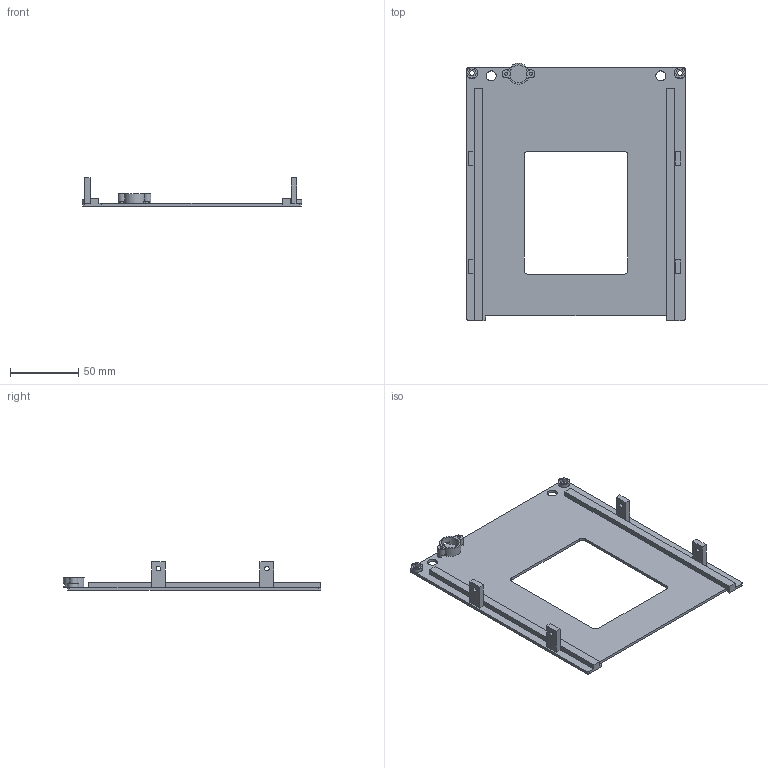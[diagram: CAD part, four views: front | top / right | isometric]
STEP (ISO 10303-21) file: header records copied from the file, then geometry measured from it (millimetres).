
FILE_DESCRIPTION(('Open CASCADE Model'),'2;1');
FILE_NAME('Open CASCADE Shape Model','2026-11-07T21:51:46',('Author'),( 'Open CASCADE'),'Open CASCADE STEP processor 7.9','Open CASCADE 7.9' ,'Unknown');
FILE_SCHEMA(('AUTOMOTIVE_DESIGN { 1 0 10303 214 1 1 1 1 }'));
Length unit declared in the file: millimetre
Products named in the file (1): Open CASCADE STEP translator 7.9 4
Bounding box: 160.4 x 188.18 x 20.8 mm (x, y, z)
Volume: 55883.6 mm3; surface area: 52629.2 mm2
Topology: 1 solids, 1 shells, 114 faces, 308 edges, 202 vertices
Faces by surface type: plane 86, cylinder 28
Full cylindrical faces by diameter (mm): 2.2 x2, 3.3 x6, 7.2 x2, 8.4 x2
Entity records: 7653 total; most frequent: CARTESIAN_POINT 1549, DIRECTION 1105, LINE 690, VECTOR 690, ORIENTED_EDGE 616, PCURVE 616, DEFINITIONAL_REPRESENTATION 616, EDGE_CURVE 308
